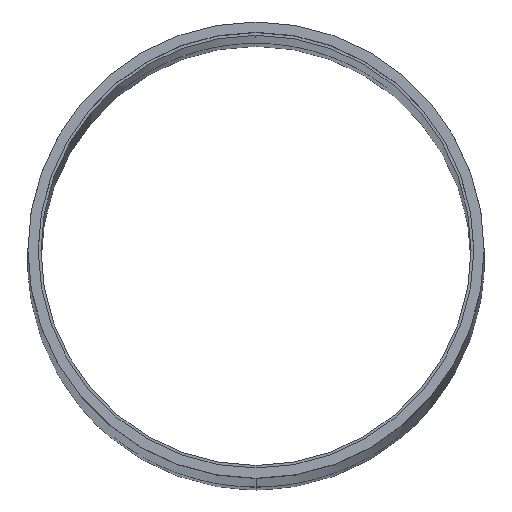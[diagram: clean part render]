
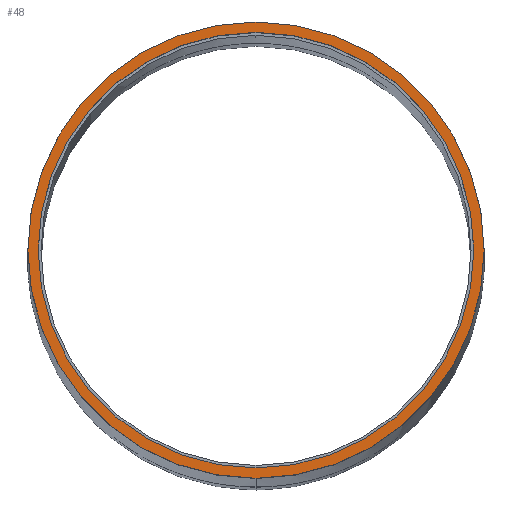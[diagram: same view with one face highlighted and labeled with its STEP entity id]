
A CAD part, top view. The second image highlights one B-rep face of the part: STEP entity #48.
In plain terms, the highlighted planar face has unit normal (0, 0, 1).
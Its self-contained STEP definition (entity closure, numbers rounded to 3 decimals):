
#42=PLANE('',#2340);
#48=ADVANCED_FACE('',(#268,#155),#42,.T.);
#155=FACE_OUTER_BOUND('',#303,.F.);
#268=FACE_BOUND('',#302,.F.);
#302=EDGE_LOOP('',(#476,#477));
#303=EDGE_LOOP('',(#478,#479));
#476=ORIENTED_EDGE('',*,*,#1645,.T.);
#477=ORIENTED_EDGE('',*,*,#1644,.T.);
#478=ORIENTED_EDGE('',*,*,#1531,.F.);
#479=ORIENTED_EDGE('',*,*,#1530,.F.);
#1530=EDGE_CURVE('',#2159,#2158,#1860,.T.);
#1531=EDGE_CURVE('',#2158,#2159,#1861,.T.);
#1644=EDGE_CURVE('',#2051,#2050,#1868,.T.);
#1645=EDGE_CURVE('',#2050,#2051,#1869,.T.);
#1860=CIRCLE('',#2249,36.5);
#1861=CIRCLE('',#2250,36.5);
#1868=CIRCLE('',#2257,34.85);
#1869=CIRCLE('',#2258,34.85);
#2050=VERTEX_POINT('',#3074);
#2051=VERTEX_POINT('',#3075);
#2158=VERTEX_POINT('',#3182);
#2159=VERTEX_POINT('',#3183);
#2249=AXIS2_PLACEMENT_3D('',#3188,#2456,#2457);
#2250=AXIS2_PLACEMENT_3D('',#3189,#2458,#2459);
#2257=AXIS2_PLACEMENT_3D('',#4442,#2478,#2479);
#2258=AXIS2_PLACEMENT_3D('',#4443,#2480,#2481);
#2340=AXIS2_PLACEMENT_3D('',#4877,#2756,#2757);
#2456=DIRECTION('',(0.,0.,1.));
#2457=DIRECTION('',(0.,-1.,0.));
#2458=DIRECTION('',(0.,0.,1.));
#2459=DIRECTION('',(0.,1.,0.));
#2478=DIRECTION('',(0.,0.,1.));
#2479=DIRECTION('',(0.,-1.,0.));
#2480=DIRECTION('',(0.,0.,1.));
#2481=DIRECTION('',(0.,1.,0.));
#2756=DIRECTION('',(0.,0.,1.));
#2757=DIRECTION('',(1.,0.,0.));
#3074=CARTESIAN_POINT('',(284.375,454.102,390.164));
#3075=CARTESIAN_POINT('',(284.375,384.402,390.164));
#3182=CARTESIAN_POINT('',(284.375,455.752,390.164));
#3183=CARTESIAN_POINT('',(284.375,382.752,390.164));
#3188=CARTESIAN_POINT('',(284.375,419.252,390.164));
#3189=CARTESIAN_POINT('',(284.375,419.252,390.164));
#4442=CARTESIAN_POINT('',(284.375,419.252,390.164));
#4443=CARTESIAN_POINT('',(284.375,419.252,390.164));
#4877=CARTESIAN_POINT('',(247.132,382.01,390.164));
